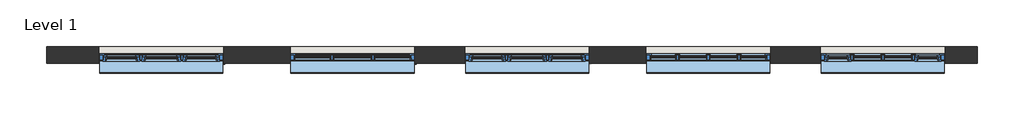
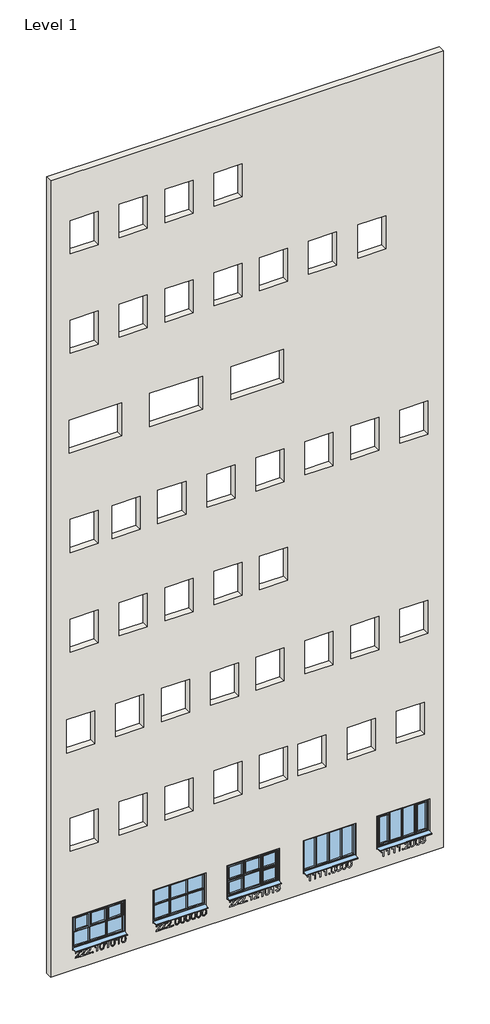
# One storey, part 1 of 2: 5 windows, 2 proxies, 1 wall.
"""IFC4 building model written with IfcOpenShell, lengths in millimetres."""

from ifc_helpers import new_model, si_unit, frame, origin, place, context, project, spatial, polyline, outline, extrude, transform, mapped, element, save
from components import standard_bec5accc, standard_a20705cd, standard_2f744673, standard_14e9ef3b, standard_a1e7b956

model = new_model("IFC4")

# Units and contexts
model_context = context("Model", 3, world=origin())
ifc_project = project(units=[si_unit("LENGTHUNIT", "METRE", prefix="MILLI")], contexts=[model_context])

# Site, building, storey
site = spatial("IfcSite", under=ifc_project)
building = spatial("IfcBuilding", under=site)
storey = spatial("IfcBuildingStorey", under=building, Name="Level 1", Elevation=0.0)

# Proxies
placement = place(None, origin())
element("IfcBuildingElementProxy", 1, Name="200mm Arial", ObjectType="200mm Arial", at=placement, inside=storey, context=model_context, shape_type="SweptSolid", body=[
    extrude(outline(polyline([(359.434856, -163002.2452174), (359.434856, -163100.8866431), (372.212624, -163089.5558776), (396.3702083, -163060.6648783), (430.7794376, -163024.6860191), (455.4030058, -163009.848112), (479.2172337, -163005.3844771), (501.1184751, -163009.5231496), (519.1446929, -163021.9391669), (531.2112223, -163041.4553067), (535.2333988, -163066.8943467), (531.6158925, -163092.1494457), (520.7633736, -163111.7023737), (503.0191987, -163124.8664178), (478.7267243, -163130.9548648), (475.5874646, -163105.8407873), (490.0207016, -163103.1245919), (500.9467968, -163095.2703113), (507.8261901, -163083.0995486), (510.1193212, -163067.433907), (507.7710078, -163052.5162921), (500.7260676, -163040.7256741), (490.2720876, -163033.0553345), (477.6966547, -163030.4985546), (463.668088, -163033.2086187), (449.2471138, -163041.3388108), (407.4066682, -163084.6998353), (378.2949396, -163116.1414831), (351.6357577, -163131.3963232), (334.3207785, -163134.0941245), (334.3207785, -163002.2452174), (359.434856, -163002.2452174)])), frame((0.0, 24202.6264647, 0.0), z_axis=(0.0, 1.0, 0.0), x_axis=(0.0, 0.0, 1.0)), (0.0, 0.0, 1.0), 10.0),
    extrude(outline(polyline([(359.434856, -162848.4214925), (359.434856, -162947.0629181), (372.212624, -162935.7321527), (396.3702083, -162906.8411533), (430.7794376, -162870.8622942), (455.4030058, -162856.0243871), (479.2172337, -162851.5607522), (501.1184751, -162855.6994246), (519.1446929, -162868.115442), (531.2112223, -162887.6315818), (535.2333988, -162913.0706218), (531.6158925, -162938.3257208), (520.7633736, -162957.8786488), (503.0191987, -162971.0426929), (478.7267243, -162977.1311399), (475.5874646, -162952.0170623), (490.0207016, -162949.3008669), (500.9467968, -162941.4465863), (507.8261901, -162929.2758237), (510.1193212, -162913.610182), (507.7710078, -162898.6925671), (500.7260676, -162886.9019492), (490.2720876, -162879.2316096), (477.6966547, -162876.6748297), (463.668088, -162879.3848938), (449.2471138, -162887.5150859), (407.4066682, -162930.8761104), (378.2949396, -162962.3177582), (351.6357577, -162977.5725983), (334.3207785, -162980.2703996), (334.3207785, -162848.4214925), (359.434856, -162848.4214925)])), frame((0.0, 24202.6264647, 0.0), z_axis=(0.0, 1.0, 0.0), x_axis=(0.0, 0.0, 1.0)), (0.0, 0.0, 1.0), 10.0),
    extrude(outline(polyline([(359.434856, -162694.5977676), (359.434856, -162793.2391932), (372.212624, -162781.9084278), (396.3702083, -162753.0174284), (430.7794376, -162717.0385693), (455.4030058, -162702.2006622), (479.2172337, -162697.7370273), (501.1184751, -162701.8756997), (519.1446929, -162714.2917171), (531.2112223, -162733.8078569), (535.2333988, -162759.2468969), (531.6158925, -162784.5019958), (520.7633736, -162804.0549239), (503.0191987, -162817.2189679), (478.7267243, -162823.307415), (475.5874646, -162798.1933374), (490.0207016, -162795.477142), (500.9467968, -162787.6228614), (507.8261901, -162775.4520988), (510.1193212, -162759.7864571), (507.7710078, -162744.8688422), (500.7260676, -162733.0782243), (490.2720876, -162725.4078847), (477.6966547, -162722.8511048), (463.668088, -162725.5611688), (449.2471138, -162733.6913609), (407.4066682, -162777.0523854), (378.2949396, -162808.4940333), (351.6357577, -162823.7488734), (334.3207785, -162826.4466747), (334.3207785, -162694.5977676), (359.434856, -162694.5977676)])), frame((0.0, 24202.6264647, 0.0), z_axis=(0.0, 1.0, 0.0), x_axis=(0.0, 0.0, 1.0)), (0.0, 0.0, 1.0), 10.0),
    extrude(outline(polyline([(-162631.8125737, 24202.6264647), (-162656.9266513, 24202.6264647), (-162656.9266513, 24212.6264647), (-162631.8125737, 24212.6264647), (-162631.8125737, 24202.6264647)])), frame((0.0, 0.0, 334.3207785), z_axis=(0.0, 0.0, 1.0), x_axis=(1.0, 0.0, 0.0)), (0.0, 0.0, 1.0), 25.1140775),
    extrude(outline(polyline([(334.3207785, -162496.824407), (535.2333988, -162496.824407), (535.2333988, -162513.0112148), (522.0754861, -162521.8833022), (508.5006405, -162535.3539146), (485.0052437, -162572.1666396), (461.2645923, -162572.1666396), (473.9442584, -162545.7281869), (490.8913556, -162521.9384845), (334.3207785, -162521.9384845), (334.3207785, -162496.824407)])), frame((0.0, 24202.6264647, 0.0), z_axis=(0.0, 1.0, 0.0), x_axis=(0.0, 0.0, 1.0)), (0.0, 0.0, 1.0), 10.0),
    extrude(outline(polyline([(433.1584079, -162437.1784728), (384.2914162, -162432.1752777), (365.4405296, -162425.9212838), (350.3113825, -162417.1656923), (335.9639847, -162397.3491155), (331.1815188, -162371.2540193), (333.9345024, -162350.9530645), (342.1934532, -162334.4903452), (356.0503417, -162321.7554968), (375.5971383, -162312.6381547), (401.1833311, -162307.156713), (433.1584079, -162305.3295658), (480.3699306, -162309.8913025), (510.0947958, -162321.6635263), (520.8553441, -162330.3332787), (528.7586757, -162341.9215615), (533.614718, -162355.77845), (535.2333988, -162371.2540193), (532.4988093, -162391.4446095), (524.2950408, -162407.8705405), (510.4933346, -162420.623783), (490.964932, -162429.7963075), (465.3174256, -162435.3329315), (433.1584079, -162437.1784728)]), holes=[polyline([(433.2074588, -162412.0643953), (472.2029503, -162409.0232375), (496.6793657, -162399.899764), (506.7593324, -162387.2691488), (510.1193212, -162371.5483249), (506.3056112, -162354.9445842), (494.8644812, -162341.8234597), (471.8228055, -162333.2885974), (433.2074588, -162330.4436433), (393.7643775, -162333.3866993), (370.8882488, -162342.2158671), (359.9437594, -162355.3615171), (356.2955963, -162371.2540193), (359.9314967, -162387.1465215), (370.8391979, -162400.2921714), (393.7030639, -162409.1213393), (433.2074588, -162412.0643953)])]), frame((0.0, 24202.6264647, 0.0), z_axis=(0.0, 1.0, 0.0), x_axis=(0.0, 0.0, 1.0)), (0.0, 0.0, 1.0), 10.0),
    extrude(outline(polyline([(334.3207785, -162189.1769571), (535.2333988, -162189.1769571), (535.2333988, -162205.3637649), (522.0754861, -162214.2358524), (508.5006405, -162227.7064648), (485.0052437, -162264.5191898), (461.2645923, -162264.5191898), (473.9442584, -162238.080737), (490.8913556, -162214.2910347), (334.3207785, -162214.2910347), (334.3207785, -162189.1769571)])), frame((0.0, 24202.6264647, 0.0), z_axis=(0.0, 1.0, 0.0), x_axis=(0.0, 0.0, 1.0)), (0.0, 0.0, 1.0), 10.0),
    extrude(outline(polyline([(433.1584079, -162129.531023), (384.2914162, -162124.5278279), (365.4405296, -162118.2738339), (350.3113825, -162109.5182425), (335.9639847, -162089.7016656), (331.1815188, -162063.6065695), (333.9345024, -162043.3056147), (342.1934532, -162026.8428954), (356.0503417, -162014.108047), (375.5971383, -162004.9907049), (401.1833311, -161999.5092632), (433.1584079, -161997.6821159), (480.3699306, -162002.2438527), (510.0947958, -162014.0160765), (520.8553441, -162022.6858289), (528.7586757, -162034.2741117), (533.614718, -162048.1310002), (535.2333988, -162063.6065695), (532.4988093, -162083.7971596), (524.2950408, -162100.2230907), (510.4933346, -162112.9763332), (490.964932, -162122.1488576), (465.3174256, -162127.6854817), (433.1584079, -162129.531023)]), holes=[polyline([(433.2074588, -162104.4169455), (472.2029503, -162101.3757876), (496.6793657, -162092.2523141), (506.7593324, -162079.621699), (510.1193212, -162063.9008751), (506.3056112, -162047.2971343), (494.8644812, -162034.1760098), (471.8228055, -162025.6411476), (433.2074588, -162022.7961935), (393.7643775, -162025.7392494), (370.8882488, -162034.5684173), (359.9437594, -162047.7140673), (356.2955963, -162063.6065695), (359.9314967, -162079.4990716), (370.8391979, -162092.6447216), (393.7030639, -162101.4738895), (433.2074588, -162104.4169455)])]), frame((0.0, 24202.6264647, 0.0), z_axis=(0.0, 1.0, 0.0), x_axis=(0.0, 0.0, 1.0)), (0.0, 0.0, 1.0), 10.0),
    extrude(outline(polyline([(334.3207785, -161881.5295073), (535.2333988, -161881.5295073), (535.2333988, -161897.7163151), (522.0754861, -161906.5884026), (508.5006405, -161920.0590149), (485.0052437, -161956.8717399), (461.2645923, -161956.8717399), (473.9442584, -161930.4332872), (490.8913556, -161906.6435848), (334.3207785, -161906.6435848), (334.3207785, -161881.5295073)])), frame((0.0, 24202.6264647, 0.0), z_axis=(0.0, 1.0, 0.0), x_axis=(0.0, 0.0, 1.0)), (0.0, 0.0, 1.0), 10.0),
    extrude(outline(polyline([(433.1584079, -161821.8835732), (384.2914162, -161816.880378), (365.4405296, -161810.6263841), (350.3113825, -161801.8707926), (335.9639847, -161782.0542158), (331.1815188, -161755.9591196), (333.9345024, -161735.6581649), (342.1934532, -161719.1954456), (356.0503417, -161706.4605972), (375.5971383, -161697.3432551), (401.1833311, -161691.8618133), (433.1584079, -161690.0346661), (480.3699306, -161694.5964028), (510.0947958, -161706.3686267), (520.8553441, -161715.038379), (528.7586757, -161726.6266619), (533.614718, -161740.4835504), (535.2333988, -161755.9591196), (532.4988093, -161776.1497098), (524.2950408, -161792.5756409), (510.4933346, -161805.3288834), (490.964932, -161814.5014078), (465.3174256, -161820.0380318), (433.1584079, -161821.8835732)]), holes=[polyline([(433.2074588, -161796.7694956), (472.2029503, -161793.7283378), (496.6793657, -161784.6048643), (506.7593324, -161771.9742491), (510.1193212, -161756.2534252), (506.3056112, -161739.6496845), (494.8644812, -161726.52856), (471.8228055, -161717.9936977), (433.2074588, -161715.1487436), (393.7643775, -161718.0917996), (370.8882488, -161726.9209675), (359.9437594, -161740.0666174), (356.2955963, -161755.9591196), (359.9314967, -161771.8516218), (370.8391979, -161784.9972718), (393.7030639, -161793.8264397), (433.2074588, -161796.7694956)])]), frame((0.0, 24202.6264647, 0.0), z_axis=(0.0, 1.0, 0.0), x_axis=(0.0, 0.0, 1.0)), (0.0, 0.0, 1.0), 10.0),
])
element("IfcBuildingElementProxy", 2, Name="200mm Arial", ObjectType="200mm Arial", at=placement, inside=storey, context=model_context, shape_type="SweptSolid", body=[
    extrude(outline(polyline([(359.434856, -160702.2452174), (359.434856, -160800.8866431), (372.212624, -160789.5558776), (396.3702083, -160760.6648783), (430.7794376, -160724.6860191), (455.4030058, -160709.848112), (479.2172337, -160705.3844771), (501.1184751, -160709.5231496), (519.1446929, -160721.9391669), (531.2112223, -160741.4553067), (535.2333988, -160766.8943467), (531.6158925, -160792.1494457), (520.7633736, -160811.7023737), (503.0191987, -160824.8664178), (478.7267243, -160830.9548648), (475.5874646, -160805.8407873), (490.0207016, -160803.1245919), (500.9467968, -160795.2703113), (507.8261901, -160783.0995486), (510.1193212, -160767.433907), (507.7710078, -160752.5162921), (500.7260676, -160740.7256741), (490.2720876, -160733.0553345), (477.6966547, -160730.4985546), (463.668088, -160733.2086187), (449.2471138, -160741.3388108), (407.4066682, -160784.6998353), (378.2949396, -160816.1414831), (351.6357577, -160831.3963232), (334.3207785, -160834.0941245), (334.3207785, -160702.2452174), (359.434856, -160702.2452174)])), frame((0.0, 24202.6264647, 0.0), z_axis=(0.0, 1.0, 0.0), x_axis=(0.0, 0.0, 1.0)), (0.0, 0.0, 1.0), 10.0),
    extrude(outline(polyline([(359.434856, -160548.4214925), (359.434856, -160647.0629181), (372.212624, -160635.7321527), (396.3702083, -160606.8411533), (430.7794376, -160570.8622942), (455.4030058, -160556.0243871), (479.2172337, -160551.5607522), (501.1184751, -160555.6994246), (519.1446929, -160568.115442), (531.2112223, -160587.6315818), (535.2333988, -160613.0706218), (531.6158925, -160638.3257208), (520.7633736, -160657.8786488), (503.0191987, -160671.0426929), (478.7267243, -160677.1311399), (475.5874646, -160652.0170623), (490.0207016, -160649.3008669), (500.9467968, -160641.4465863), (507.8261901, -160629.2758237), (510.1193212, -160613.610182), (507.7710078, -160598.6925671), (500.7260676, -160586.9019492), (490.2720876, -160579.2316096), (477.6966547, -160576.6748297), (463.668088, -160579.3848938), (449.2471138, -160587.5150859), (407.4066682, -160630.8761104), (378.2949396, -160662.3177582), (351.6357577, -160677.5725983), (334.3207785, -160680.2703996), (334.3207785, -160548.4214925), (359.434856, -160548.4214925)])), frame((0.0, 24202.6264647, 0.0), z_axis=(0.0, 1.0, 0.0), x_axis=(0.0, 0.0, 1.0)), (0.0, 0.0, 1.0), 10.0),
    extrude(outline(polyline([(359.434856, -160394.5977676), (359.434856, -160493.2391932), (372.212624, -160481.9084278), (396.3702083, -160453.0174284), (430.7794376, -160417.0385693), (455.4030058, -160402.2006622), (479.2172337, -160397.7370273), (501.1184751, -160401.8756997), (519.1446929, -160414.2917171), (531.2112223, -160433.8078569), (535.2333988, -160459.2468969), (531.6158925, -160484.5019958), (520.7633736, -160504.0549239), (503.0191987, -160517.2189679), (478.7267243, -160523.307415), (475.5874646, -160498.1933374), (490.0207016, -160495.477142), (500.9467968, -160487.6228614), (507.8261901, -160475.4520988), (510.1193212, -160459.7864571), (507.7710078, -160444.8688422), (500.7260676, -160433.0782243), (490.2720876, -160425.4078847), (477.6966547, -160422.8511048), (463.668088, -160425.5611688), (449.2471138, -160433.6913609), (407.4066682, -160477.0523854), (378.2949396, -160508.4940333), (351.6357577, -160523.7488734), (334.3207785, -160526.4466747), (334.3207785, -160394.5977676), (359.434856, -160394.5977676)])), frame((0.0, 24202.6264647, 0.0), z_axis=(0.0, 1.0, 0.0), x_axis=(0.0, 0.0, 1.0)), (0.0, 0.0, 1.0), 10.0),
    extrude(outline(polyline([(-160331.8125737, 24202.6264647), (-160356.9266513, 24202.6264647), (-160356.9266513, 24212.6264647), (-160331.8125737, 24212.6264647), (-160331.8125737, 24202.6264647)])), frame((0.0, 0.0, 334.3207785), z_axis=(0.0, 0.0, 1.0), x_axis=(1.0, 0.0, 0.0)), (0.0, 0.0, 1.0), 25.1140775),
    extrude(outline(polyline([(433.1584079, -160291.0021977), (384.2914162, -160285.9990026), (365.4405296, -160279.7450087), (350.3113825, -160270.9894172), (335.9639847, -160251.1728404), (331.1815188, -160225.0777442), (333.9345024, -160204.7767894), (342.1934532, -160188.3140702), (356.0503417, -160175.5792218), (375.5971383, -160166.4618796), (401.1833311, -160160.9804379), (433.1584079, -160159.1532907), (480.3699306, -160163.7150274), (510.0947958, -160175.4872513), (520.8553441, -160184.1570036), (528.7586757, -160195.7452865), (533.614718, -160209.6021749), (535.2333988, -160225.0777442), (532.4988093, -160245.2683344), (524.2950408, -160261.6942655), (510.4933346, -160274.447508), (490.964932, -160283.6200324), (465.3174256, -160289.1566564), (433.1584079, -160291.0021977)]), holes=[polyline([(433.2074588, -160265.8881202), (472.2029503, -160262.8469624), (496.6793657, -160253.7234889), (506.7593324, -160241.0928737), (510.1193212, -160225.3720498), (506.3056112, -160208.7683091), (494.8644812, -160195.6471846), (471.8228055, -160187.1123223), (433.2074588, -160184.2673682), (393.7643775, -160187.2104242), (370.8882488, -160196.0395921), (359.9437594, -160209.185242), (356.2955963, -160225.0777442), (359.9314967, -160240.9702464), (370.8391979, -160254.1158964), (393.7030639, -160262.9450642), (433.2074588, -160265.8881202)])]), frame((0.0, 24202.6264647, 0.0), z_axis=(0.0, 1.0, 0.0), x_axis=(0.0, 0.0, 1.0)), (0.0, 0.0, 1.0), 10.0),
    extrude(outline(polyline([(433.1584079, -160137.1784728), (384.2914162, -160132.1752777), (365.4405296, -160125.9212838), (350.3113825, -160117.1656923), (335.9639847, -160097.3491155), (331.1815188, -160071.2540193), (333.9345024, -160050.9530645), (342.1934532, -160034.4903452), (356.0503417, -160021.7554968), (375.5971383, -160012.6381547), (401.1833311, -160007.156713), (433.1584079, -160005.3295658), (480.3699306, -160009.8913025), (510.0947958, -160021.6635263), (520.8553441, -160030.3332787), (528.7586757, -160041.9215615), (533.614718, -160055.77845), (535.2333988, -160071.2540193), (532.4988093, -160091.4446095), (524.2950408, -160107.8705405), (510.4933346, -160120.623783), (490.964932, -160129.7963075), (465.3174256, -160135.3329315), (433.1584079, -160137.1784728)]), holes=[polyline([(433.2074588, -160112.0643953), (472.2029503, -160109.0232375), (496.6793657, -160099.899764), (506.7593324, -160087.2691488), (510.1193212, -160071.5483249), (506.3056112, -160054.9445842), (494.8644812, -160041.8234597), (471.8228055, -160033.2885974), (433.2074588, -160030.4436433), (393.7643775, -160033.3866993), (370.8882488, -160042.2158671), (359.9437594, -160055.3615171), (356.2955963, -160071.2540193), (359.9314967, -160087.1465215), (370.8391979, -160100.2921714), (393.7030639, -160109.1213393), (433.2074588, -160112.0643953)])]), frame((0.0, 24202.6264647, 0.0), z_axis=(0.0, 1.0, 0.0), x_axis=(0.0, 0.0, 1.0)), (0.0, 0.0, 1.0), 10.0),
    extrude(outline(polyline([(433.1584079, -159983.3547479), (384.2914162, -159978.3515528), (365.4405296, -159972.0975589), (350.3113825, -159963.3419674), (335.9639847, -159943.5253906), (331.1815188, -159917.4302944), (333.9345024, -159897.1293396), (342.1934532, -159880.6666203), (356.0503417, -159867.9317719), (375.5971383, -159858.8144298), (401.1833311, -159853.3329881), (433.1584079, -159851.5058408), (480.3699306, -159856.0675776), (510.0947958, -159867.8398014), (520.8553441, -159876.5095538), (528.7586757, -159888.0978366), (533.614718, -159901.9547251), (535.2333988, -159917.4302944), (532.4988093, -159937.6208845), (524.2950408, -159954.0468156), (510.4933346, -159966.8000581), (490.964932, -159975.9725825), (465.3174256, -159981.5092066), (433.1584079, -159983.3547479)]), holes=[polyline([(433.2074588, -159958.2406704), (472.2029503, -159955.1995125), (496.6793657, -159946.0760391), (506.7593324, -159933.4454239), (510.1193212, -159917.7246), (506.3056112, -159901.1208593), (494.8644812, -159887.9997348), (471.8228055, -159879.4648725), (433.2074588, -159876.6199184), (393.7643775, -159879.5629743), (370.8882488, -159888.3921422), (359.9437594, -159901.5377922), (356.2955963, -159917.4302944), (359.9314967, -159933.3227966), (370.8391979, -159946.4684465), (393.7030639, -159955.2976144), (433.2074588, -159958.2406704)])]), frame((0.0, 24202.6264647, 0.0), z_axis=(0.0, 1.0, 0.0), x_axis=(0.0, 0.0, 1.0)), (0.0, 0.0, 1.0), 10.0),
    extrude(outline(polyline([(433.1584079, -159829.531023), (384.2914162, -159824.5278279), (365.4405296, -159818.2738339), (350.3113825, -159809.5182425), (335.9639847, -159789.7016656), (331.1815188, -159763.6065695), (333.9345024, -159743.3056147), (342.1934532, -159726.8428954), (356.0503417, -159714.108047), (375.5971383, -159704.9907049), (401.1833311, -159699.5092632), (433.1584079, -159697.6821159), (480.3699306, -159702.2438527), (510.0947958, -159714.0160765), (520.8553441, -159722.6858289), (528.7586757, -159734.2741117), (533.614718, -159748.1310002), (535.2333988, -159763.6065695), (532.4988093, -159783.7971596), (524.2950408, -159800.2230907), (510.4933346, -159812.9763332), (490.964932, -159822.1488576), (465.3174256, -159827.6854817), (433.1584079, -159829.531023)]), holes=[polyline([(433.2074588, -159804.4169455), (472.2029503, -159801.3757876), (496.6793657, -159792.2523141), (506.7593324, -159779.621699), (510.1193212, -159763.9008751), (506.3056112, -159747.2971343), (494.8644812, -159734.1760098), (471.8228055, -159725.6411476), (433.2074588, -159722.7961935), (393.7643775, -159725.7392494), (370.8882488, -159734.5684173), (359.9437594, -159747.7140673), (356.2955963, -159763.6065695), (359.9314967, -159779.4990716), (370.8391979, -159792.6447216), (393.7030639, -159801.4738895), (433.2074588, -159804.4169455)])]), frame((0.0, 24202.6264647, 0.0), z_axis=(0.0, 1.0, 0.0), x_axis=(0.0, 0.0, 1.0)), (0.0, 0.0, 1.0), 10.0),
    extrude(outline(polyline([(433.1584079, -159675.7072981), (384.2914162, -159670.7041029), (365.4405296, -159664.450109), (350.3113825, -159655.6945175), (335.9639847, -159635.8779407), (331.1815188, -159609.7828445), (333.9345024, -159589.4818898), (342.1934532, -159573.0191705), (356.0503417, -159560.2843221), (375.5971383, -159551.16698), (401.1833311, -159545.6855382), (433.1584079, -159543.858391), (480.3699306, -159548.4201277), (510.0947958, -159560.1923516), (520.8553441, -159568.8621039), (528.7586757, -159580.4503868), (533.614718, -159594.3072753), (535.2333988, -159609.7828445), (532.4988093, -159629.9734347), (524.2950408, -159646.3993658), (510.4933346, -159659.1526083), (490.964932, -159668.3251327), (465.3174256, -159673.8617567), (433.1584079, -159675.7072981)]), holes=[polyline([(433.2074588, -159650.5932205), (472.2029503, -159647.5520627), (496.6793657, -159638.4285892), (506.7593324, -159625.7979741), (510.1193212, -159610.0771501), (506.3056112, -159593.4734094), (494.8644812, -159580.3522849), (471.8228055, -159571.8174226), (433.2074588, -159568.9724685), (393.7643775, -159571.9155245), (370.8882488, -159580.7446924), (359.9437594, -159593.8903424), (356.2955963, -159609.7828445), (359.9314967, -159625.6753467), (370.8391979, -159638.8209967), (393.7030639, -159647.6501646), (433.2074588, -159650.5932205)])]), frame((0.0, 24202.6264647, 0.0), z_axis=(0.0, 1.0, 0.0), x_axis=(0.0, 0.0, 1.0)), (0.0, 0.0, 1.0), 10.0),
    extrude(outline(polyline([(433.1584079, -159521.8835732), (384.2914162, -159516.880378), (365.4405296, -159510.6263841), (350.3113825, -159501.8707926), (335.9639847, -159482.0542158), (331.1815188, -159455.9591196), (333.9345024, -159435.6581649), (342.1934532, -159419.1954456), (356.0503417, -159406.4605972), (375.5971383, -159397.3432551), (401.1833311, -159391.8618133), (433.1584079, -159390.0346661), (480.3699306, -159394.5964028), (510.0947958, -159406.3686267), (520.8553441, -159415.038379), (528.7586757, -159426.6266619), (533.614718, -159440.4835504), (535.2333988, -159455.9591196), (532.4988093, -159476.1497098), (524.2950408, -159492.5756409), (510.4933346, -159505.3288834), (490.964932, -159514.5014078), (465.3174256, -159520.0380318), (433.1584079, -159521.8835732)]), holes=[polyline([(433.2074588, -159496.7694956), (472.2029503, -159493.7283378), (496.6793657, -159484.6048643), (506.7593324, -159471.9742491), (510.1193212, -159456.2534252), (506.3056112, -159439.6496845), (494.8644812, -159426.52856), (471.8228055, -159417.9936977), (433.2074588, -159415.1487436), (393.7643775, -159418.0917996), (370.8882488, -159426.9209675), (359.9437594, -159440.0666174), (356.2955963, -159455.9591196), (359.9314967, -159471.8516218), (370.8391979, -159484.9972718), (393.7030639, -159493.8264397), (433.2074588, -159496.7694956)])]), frame((0.0, 24202.6264647, 0.0), z_axis=(0.0, 1.0, 0.0), x_axis=(0.0, 0.0, 1.0)), (0.0, 0.0, 1.0), 10.0),
])

# Wall
element("IfcWall", 3, ObjectType="Generic - 200mm", at=placement, inside=storey, context=model_context, shape_type="SweptSolid", body=[
    extrude(outline(polyline([(0.0, -163836.7668676), (0.0, -152636.7668676), (24000.0, -152636.7668676), (24000.0, -163836.7668676), (0.0, -163836.7668676)]), holes=[polyline([(1600.0, -161705.7668676), (600.0, -161705.7668676), (600.0, -163205.7668676), (1600.0, -163205.7668676), (1600.0, -161705.7668676)]), polyline([(13600.0, -162476.7668676), (12600.0, -162476.7668676), (12600.0, -163276.7668676), (13600.0, -163276.7668676), (13600.0, -162476.7668676)]), polyline([(13600.0, -161276.7668676), (12600.0, -161276.7668676), (12600.0, -162076.7668676), (13600.0, -162076.7668676), (13600.0, -161276.7668676)]), polyline([(13600.0, -159976.7668676), (12600.0, -159976.7668676), (12600.0, -160776.7668676), (13600.0, -160776.7668676), (13600.0, -159976.7668676)]), polyline([(13600.0, -158576.7668676), (12600.0, -158576.7668676), (12600.0, -159376.7668676), (13600.0, -159376.7668676), (13600.0, -158576.7668676)]), polyline([(13600.0, -157176.7668676), (12600.0, -157176.7668676), (12600.0, -157976.7668676), (13600.0, -157976.7668676), (13600.0, -157176.7668676)]), polyline([(13600.0, -155776.7668676), (12600.0, -155776.7668676), (12600.0, -156576.7668676), (13600.0, -156576.7668676), (13600.0, -155776.7668676)]), polyline([(13600.0, -154476.7668676), (12600.0, -154476.7668676), (12600.0, -155276.7668676), (13600.0, -155276.7668676), (13600.0, -154476.7668676)]), polyline([(13600.0, -153076.7668676), (12600.0, -153076.7668676), (12600.0, -153876.7668676), (13600.0, -153876.7668676), (13600.0, -153076.7668676)]), polyline([(4600.0, -162476.7668676), (3600.0, -162476.7668676), (3600.0, -163276.7668676), (4600.0, -163276.7668676), (4600.0, -162476.7668676)]), polyline([(4600.0, -161076.7668676), (3600.0, -161076.7668676), (3600.0, -161876.7668676), (4600.0, -161876.7668676), (4600.0, -161076.7668676)]), polyline([(4600.0, -159776.7668676), (3600.0, -159776.7668676), (3600.0, -160576.7668676), (4600.0, -160576.7668676), (4600.0, -159776.7668676)]), polyline([(4600.0, -158376.7668676), (3600.0, -158376.7668676), (3600.0, -159176.7668676), (4600.0, -159176.7668676), (4600.0, -158376.7668676)]), polyline([(19600.0, -157076.7668676), (18600.0, -157076.7668676), (18600.0, -157876.7668676), (19600.0, -157876.7668676), (19600.0, -157076.7668676)]), polyline([(19600.0, -158376.7668676), (18600.0, -158376.7668676), (18600.0, -159176.7668676), (19600.0, -159176.7668676), (19600.0, -158376.7668676)]), polyline([(19600.0, -155676.7668676), (18600.0, -155676.7668676), (18600.0, -156476.7668676), (19600.0, -156476.7668676), (19600.0, -155676.7668676)]), polyline([(19600.0, -154276.7668676), (18600.0, -154276.7668676), (18600.0, -155076.7668676), (19600.0, -155076.7668676), (19600.0, -154276.7668676)]), polyline([(10600.0, -157076.7668676), (9600.0, -157076.7668676), (9600.0, -157876.7668676), (10600.0, -157876.7668676), (10600.0, -157076.7668676)]), polyline([(10600.0, -162476.7668676), (9600.0, -162476.7668676), (9600.0, -163276.7668676), (10600.0, -163276.7668676), (10600.0, -162476.7668676)]), polyline([(10600.0, -161076.7668676), (9600.0, -161076.7668676), (9600.0, -161876.7668676), (10600.0, -161876.7668676), (10600.0, -161076.7668676)]), polyline([(10600.0, -159776.7668676), (9600.0, -159776.7668676), (9600.0, -160576.7668676), (10600.0, -160576.7668676), (10600.0, -159776.7668676)]), polyline([(10600.0, -158376.7668676), (9600.0, -158376.7668676), (9600.0, -159176.7668676), (10600.0, -159176.7668676), (10600.0, -158376.7668676)]), polyline([(7600.0, -162576.7668676), (6600.0, -162576.7668676), (6600.0, -163376.7668676), (7600.0, -163376.7668676), (7600.0, -162576.7668676)]), polyline([(7600.0, -161176.7668676), (6600.0, -161176.7668676), (6600.0, -161976.7668676), (7600.0, -161976.7668676), (7600.0, -161176.7668676)]), polyline([(7600.0, -159876.7668676), (6600.0, -159876.7668676), (6600.0, -160676.7668676), (7600.0, -160676.7668676), (7600.0, -159876.7668676)]), polyline([(7600.0, -158476.7668676), (6600.0, -158476.7668676), (6600.0, -159276.7668676), (7600.0, -159276.7668676), (7600.0, -158476.7668676)]), polyline([(7600.0, -157176.7668676), (6600.0, -157176.7668676), (6600.0, -157976.7668676), (7600.0, -157976.7668676), (7600.0, -157176.7668676)]), polyline([(7600.0, -155776.7668676), (6600.0, -155776.7668676), (6600.0, -156576.7668676), (7600.0, -156576.7668676), (7600.0, -155776.7668676)]), polyline([(7600.0, -154476.7668676), (6600.0, -154476.7668676), (6600.0, -155276.7668676), (7600.0, -155276.7668676), (7600.0, -154476.7668676)]), polyline([(7600.0, -153076.7668676), (6600.0, -153076.7668676), (6600.0, -153876.7668676), (7600.0, -153876.7668676), (7600.0, -153076.7668676)]), polyline([(600.0, -155125.7668676), (600.0, -156625.7668676), (1600.0, -156625.7668676), (1600.0, -155125.7668676), (600.0, -155125.7668676)]), polyline([(600.0, -153025.7668676), (600.0, -154525.7668676), (1600.0, -154525.7668676), (1600.0, -153025.7668676), (600.0, -153025.7668676)]), polyline([(1600.0, -157305.7668676), (600.0, -157305.7668676), (600.0, -158805.7668676), (1600.0, -158805.7668676), (1600.0, -157305.7668676)]), polyline([(1600.0, -159405.7668676), (600.0, -159405.7668676), (600.0, -160905.7668676), (1600.0, -160905.7668676), (1600.0, -159405.7668676)]), polyline([(4600.0, -157876.7668676), (4600.0, -157076.7668676), (3600.0, -157076.7668676), (3600.0, -157876.7668676), (4600.0, -157876.7668676)]), polyline([(4560.0, -155976.7668676), (3600.0, -155976.7668676), (3600.0, -156776.7668676), (4560.0, -156776.7668676), (4560.0, -155976.7668676)]), polyline([(22600.0, -158376.7668676), (21600.0, -158376.7668676), (21600.0, -159176.7668676), (22600.0, -159176.7668676), (22600.0, -158376.7668676)]), polyline([(4560.0, -154576.7668676), (3600.0, -154576.7668676), (3600.0, -155376.7668676), (4560.0, -155376.7668676), (4560.0, -154576.7668676)]), polyline([(4560.0, -153176.7668676), (3600.0, -153176.7668676), (3600.0, -153976.7668676), (4560.0, -153976.7668676), (4560.0, -153176.7668676)]), polyline([(22600.0, -163276.7668676), (22600.0, -162476.7668676), (21600.0, -162476.7668676), (21600.0, -163276.7668676), (22600.0, -163276.7668676)]), polyline([(22600.0, -160576.7668676), (22600.0, -159776.7668676), (21600.0, -159776.7668676), (21600.0, -160576.7668676), (22600.0, -160576.7668676)]), polyline([(19600.0, -163276.7668676), (19600.0, -162476.7668676), (18600.0, -162476.7668676), (18600.0, -163276.7668676), (19600.0, -163276.7668676)]), polyline([(19600.0, -161876.7668676), (19600.0, -161076.7668676), (18600.0, -161076.7668676), (18600.0, -161876.7668676), (19600.0, -161876.7668676)]), polyline([(19600.0, -160576.7668676), (19600.0, -159776.7668676), (18600.0, -159776.7668676), (18600.0, -160576.7668676), (19600.0, -160576.7668676)]), polyline([(16600.0, -161805.7668676), (15600.0, -161805.7668676), (15600.0, -163305.7668676), (16600.0, -163305.7668676), (16600.0, -161805.7668676)]), polyline([(16600.0, -159505.7668676), (15600.0, -159505.7668676), (15600.0, -161005.7668676), (16600.0, -161005.7668676), (16600.0, -159505.7668676)]), polyline([(22600.0, -161076.7668676), (21600.0, -161076.7668676), (21600.0, -161876.7668676), (22600.0, -161876.7668676), (22600.0, -161076.7668676)]), polyline([(16600.0, -157195.7668676), (15600.0, -157195.7668676), (15600.0, -158695.7668676), (16600.0, -158695.7668676), (16600.0, -157195.7668676)])]), frame((0.0, 24212.6264647, 0.0), z_axis=(0.0, 1.0, 0.0), x_axis=(0.0, 0.0, 1.0)), (0.0, 0.0, 1.0), 200.0),
])

# Windows
standard_shape = standard_bec5accc(model_context)
element("IfcWindow", 4, ObjectType="SMARTS_Alitherm600 : Standard", at=placement, inside=storey, context=model_context, shape_type="MappedRepresentation", body=[
    mapped(standard_shape, transform((-158055.7668676, 24355.9063079, 0.0), x_axis=(-1.0, 0.0, 0.0), y_axis=(0.0, -1.0, 0.0), z_axis=(0.0, 0.0, 1.0))),
])
standard_2_shape = standard_a20705cd(model_context)
element("IfcWindow", 5, ObjectType="SMARTS_Alitherm600 : Standard", at=placement, inside=storey, context=model_context, shape_type="MappedRepresentation", body=[
    mapped(standard_2_shape, transform((-160155.7668676, 24355.9063079, 0.0), x_axis=(-1.0, 0.0, 0.0), y_axis=(0.0, -1.0, 0.0), z_axis=(0.0, 0.0, 1.0))),
])
standard_3_shape = standard_2f744673(model_context)
element("IfcWindow", 6, ObjectType="SMARTS_Alitherm600 : Standard", at=placement, inside=storey, context=model_context, shape_type="MappedRepresentation", body=[
    mapped(standard_3_shape, transform((-162455.7668676, 24355.9063079, 0.0), x_axis=(-1.0, 0.0, 0.0), y_axis=(0.0, -1.0, 0.0), z_axis=(0.0, 0.0, 1.0))),
])
standard_4_shape = standard_14e9ef3b(model_context)
element("IfcWindow", 7, ObjectType="SMARTS_Alitherm600 : Standard", at=placement, inside=storey, context=model_context, shape_type="MappedRepresentation", body=[
    mapped(standard_4_shape, transform((-153775.7668676, 24355.9063079, 0.0), x_axis=(-1.0, 0.0, 0.0), y_axis=(0.0, -1.0, 0.0), z_axis=(0.0, 0.0, 1.0))),
])
standard_5_shape = standard_a1e7b956(model_context)
element("IfcWindow", 8, ObjectType="SMARTS_Alitherm600 : Standard", at=placement, inside=storey, context=model_context, shape_type="MappedRepresentation", body=[
    mapped(standard_5_shape, transform((-155875.7668676, 24355.9063079, 0.0), x_axis=(-1.0, 0.0, 0.0), y_axis=(0.0, -1.0, 0.0), z_axis=(0.0, 0.0, 1.0))),
])

save(model, "model.ifc")
